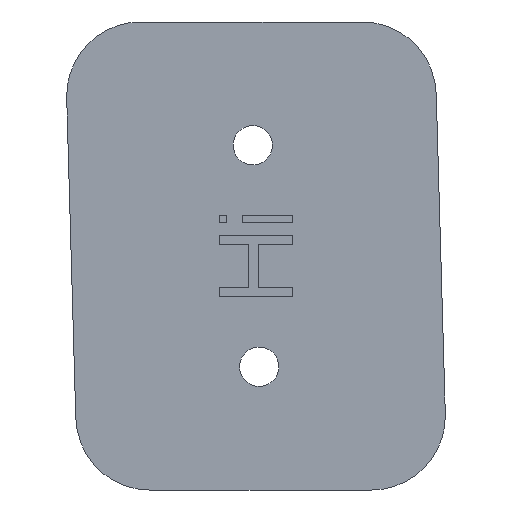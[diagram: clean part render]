
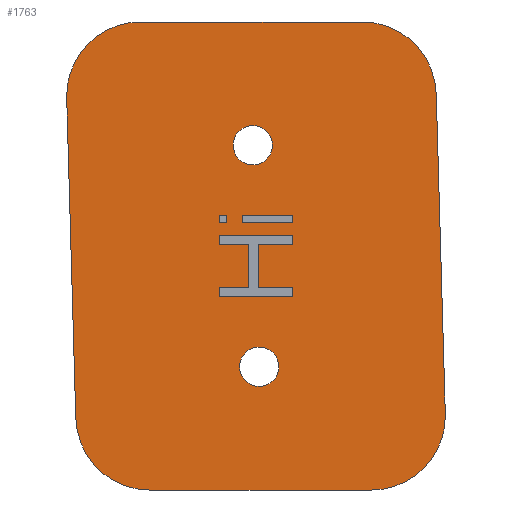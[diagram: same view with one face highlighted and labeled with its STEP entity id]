
A CAD part, front view. The second image highlights one B-rep face of the part: STEP entity #1763.
In plain terms, the highlighted planar face has unit normal (0, -1, 0).
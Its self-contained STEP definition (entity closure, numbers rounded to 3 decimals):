
#2=DIRECTION('',(0.028,0.,-1.));
#3=VECTOR('',#2,26.01);
#4=CARTESIAN_POINT('',(-15.37,-22.25,12.83));
#5=LINE('',#4,#3);
#6=CARTESIAN_POINT('',(-9.372,-22.25,13.));
#7=DIRECTION('',(0.,-1.,0.));
#8=DIRECTION('',(0.,0.,1.));
#9=AXIS2_PLACEMENT_3D('',#6,#7,#8);
#11=DIRECTION('',(-1.,0.,0.));
#12=VECTOR('',#11,18.007);
#13=CARTESIAN_POINT('',(8.635,-22.25,19.));
#14=LINE('',#13,#12);
#15=CARTESIAN_POINT('',(8.635,-22.25,13.));
#16=DIRECTION('',(0.,-1.,0.));
#17=DIRECTION('',(1.,0.,0.028));
#18=AXIS2_PLACEMENT_3D('',#15,#16,#17);
#20=DIRECTION('',(-0.028,0.,1.));
#21=VECTOR('',#20,26.01);
#22=CARTESIAN_POINT('',(15.37,-22.25,-12.83));
#23=LINE('',#22,#21);
#24=CARTESIAN_POINT('',(9.372,-22.25,-13.));
#25=DIRECTION('',(0.,-1.,0.));
#26=DIRECTION('',(0.,0.,-1.));
#27=AXIS2_PLACEMENT_3D('',#24,#25,#26);
#29=DIRECTION('',(1.,0.,0.));
#30=VECTOR('',#29,18.007);
#31=CARTESIAN_POINT('',(-8.635,-22.25,-19.));
#32=LINE('',#31,#30);
#33=CARTESIAN_POINT('',(-8.635,-22.25,-13.));
#34=DIRECTION('',(0.,-1.,0.));
#35=DIRECTION('',(-1.,0.,-0.028));
#36=AXIS2_PLACEMENT_3D('',#33,#34,#35);
#38=CARTESIAN_POINT('',(0.255,-22.25,-8.996));
#39=DIRECTION('',(0.,-1.,0.));
#40=DIRECTION('',(1.,0.,0.));
#41=AXIS2_PLACEMENT_3D('',#38,#39,#40);
#43=CARTESIAN_POINT('',(0.255,-22.25,-8.996));
#44=DIRECTION('',(0.,-1.,0.));
#45=DIRECTION('',(-1.,0.,0.));
#46=AXIS2_PLACEMENT_3D('',#43,#44,#45);
#48=CARTESIAN_POINT('',(-0.255,-22.25,8.996));
#49=DIRECTION('',(0.,-1.,0.));
#50=DIRECTION('',(1.,0.,0.));
#51=AXIS2_PLACEMENT_3D('',#48,#49,#50);
#53=CARTESIAN_POINT('',(-0.255,-22.25,8.996));
#54=DIRECTION('',(0.,-1.,0.));
#55=DIRECTION('',(-1.,0.,0.));
#56=AXIS2_PLACEMENT_3D('',#53,#54,#55);
#58=DIRECTION('',(-1.,0.,0.));
#59=VECTOR('',#58,2.426);
#60=CARTESIAN_POINT('',(-0.574,-22.25,-2.563));
#61=LINE('',#60,#59);
#62=DIRECTION('',(0.,0.,-1.));
#63=VECTOR('',#62,0.75);
#64=CARTESIAN_POINT('',(-3.,-22.25,-2.563));
#65=LINE('',#64,#63);
#66=DIRECTION('',(1.,0.,0.));
#67=VECTOR('',#66,6.);
#68=CARTESIAN_POINT('',(-3.,-22.25,-3.313));
#69=LINE('',#68,#67);
#70=DIRECTION('',(0.,0.,1.));
#71=VECTOR('',#70,0.75);
#72=CARTESIAN_POINT('',(3.,-22.25,-3.313));
#73=LINE('',#72,#71);
#74=DIRECTION('',(-1.,0.,0.));
#75=VECTOR('',#74,2.809);
#76=CARTESIAN_POINT('',(3.,-22.25,-2.563));
#77=LINE('',#76,#75);
#78=DIRECTION('',(0.,0.,1.));
#79=VECTOR('',#78,3.5);
#80=CARTESIAN_POINT('',(0.191,-22.25,-2.563));
#81=LINE('',#80,#79);
#82=DIRECTION('',(1.,0.,0.));
#83=VECTOR('',#82,2.809);
#84=CARTESIAN_POINT('',(0.191,-22.25,0.937));
#85=LINE('',#84,#83);
#86=DIRECTION('',(0.,0.,1.));
#87=VECTOR('',#86,0.75);
#88=CARTESIAN_POINT('',(3.,-22.25,0.937));
#89=LINE('',#88,#87);
#90=DIRECTION('',(-1.,0.,0.));
#91=VECTOR('',#90,6.);
#92=CARTESIAN_POINT('',(3.,-22.25,1.687));
#93=LINE('',#92,#91);
#94=DIRECTION('',(0.,0.,-1.));
#95=VECTOR('',#94,0.75);
#96=CARTESIAN_POINT('',(-3.,-22.25,1.687));
#97=LINE('',#96,#95);
#98=DIRECTION('',(1.,0.,0.));
#99=VECTOR('',#98,2.426);
#100=CARTESIAN_POINT('',(-3.,-22.25,0.937));
#101=LINE('',#100,#99);
#102=DIRECTION('',(0.,0.,-1.));
#103=VECTOR('',#102,3.5);
#104=CARTESIAN_POINT('',(-0.574,-22.25,0.937));
#105=LINE('',#104,#103);
#106=DIRECTION('',(-1.,0.,0.));
#107=VECTOR('',#106,4.085);
#108=CARTESIAN_POINT('',(3.,-22.25,3.312));
#109=LINE('',#108,#107);
#110=DIRECTION('',(0.,0.,-1.));
#111=VECTOR('',#110,0.625);
#112=CARTESIAN_POINT('',(-1.085,-22.25,3.312));
#113=LINE('',#112,#111);
#114=DIRECTION('',(1.,0.,0.));
#115=VECTOR('',#114,4.085);
#116=CARTESIAN_POINT('',(-1.085,-22.25,2.688));
#117=LINE('',#116,#115);
#118=DIRECTION('',(0.,0.,1.));
#119=VECTOR('',#118,0.625);
#120=CARTESIAN_POINT('',(3.,-22.25,2.688));
#121=LINE('',#120,#119);
#122=DIRECTION('',(-1.,0.,0.));
#123=VECTOR('',#122,0.638);
#124=CARTESIAN_POINT('',(-2.362,-22.25,3.312));
#125=LINE('',#124,#123);
#126=DIRECTION('',(0.,0.,-1.));
#127=VECTOR('',#126,0.625);
#128=CARTESIAN_POINT('',(-3.,-22.25,3.312));
#129=LINE('',#128,#127);
#130=DIRECTION('',(1.,0.,0.));
#131=VECTOR('',#130,0.638);
#132=CARTESIAN_POINT('',(-3.,-22.25,2.688));
#133=LINE('',#132,#131);
#134=DIRECTION('',(0.,0.,1.));
#135=VECTOR('',#134,0.625);
#136=CARTESIAN_POINT('',(-2.362,-22.25,2.688));
#137=LINE('',#136,#135);
#1540=CARTESIAN_POINT('',(-0.574,-22.25,-2.563));
#1541=CARTESIAN_POINT('',(-3.,-22.25,-2.563));
#1542=VERTEX_POINT('',#1540);
#1543=VERTEX_POINT('',#1541);
#1544=CARTESIAN_POINT('',(-3.,-22.25,-3.313));
#1545=VERTEX_POINT('',#1544);
#1546=CARTESIAN_POINT('',(3.,-22.25,-3.313));
#1547=VERTEX_POINT('',#1546);
#1548=CARTESIAN_POINT('',(3.,-22.25,-2.563));
#1549=VERTEX_POINT('',#1548);
#1558=CARTESIAN_POINT('',(3.,-22.25,3.312));
#1559=CARTESIAN_POINT('',(-1.085,-22.25,3.312));
#1560=VERTEX_POINT('',#1558);
#1561=VERTEX_POINT('',#1559);
#1562=CARTESIAN_POINT('',(-1.085,-22.25,2.688));
#1563=VERTEX_POINT('',#1562);
#1564=CARTESIAN_POINT('',(3.,-22.25,2.688));
#1565=VERTEX_POINT('',#1564);
#1566=CARTESIAN_POINT('',(1.855,-22.25,-8.996));
#1567=CARTESIAN_POINT('',(-1.345,-22.25,-8.996));
#1568=VERTEX_POINT('',#1566);
#1569=VERTEX_POINT('',#1567);
#1578=CARTESIAN_POINT('',(1.345,-22.25,8.996));
#1579=CARTESIAN_POINT('',(-1.855,-22.25,8.996));
#1580=VERTEX_POINT('',#1578);
#1581=VERTEX_POINT('',#1579);
#1612=CARTESIAN_POINT('',(0.191,-22.25,-2.563));
#1613=VERTEX_POINT('',#1612);
#1614=CARTESIAN_POINT('',(0.191,-22.25,0.937));
#1615=VERTEX_POINT('',#1614);
#1616=CARTESIAN_POINT('',(3.,-22.25,0.937));
#1617=VERTEX_POINT('',#1616);
#1618=CARTESIAN_POINT('',(3.,-22.25,1.687));
#1619=VERTEX_POINT('',#1618);
#1620=CARTESIAN_POINT('',(-3.,-22.25,1.687));
#1621=VERTEX_POINT('',#1620);
#1622=CARTESIAN_POINT('',(-3.,-22.25,0.937));
#1623=VERTEX_POINT('',#1622);
#1624=CARTESIAN_POINT('',(-0.574,-22.25,0.937));
#1625=VERTEX_POINT('',#1624);
#1626=CARTESIAN_POINT('',(-2.362,-22.25,3.312));
#1627=CARTESIAN_POINT('',(-3.,-22.25,3.312));
#1628=VERTEX_POINT('',#1626);
#1629=VERTEX_POINT('',#1627);
#1630=CARTESIAN_POINT('',(-3.,-22.25,2.688));
#1631=VERTEX_POINT('',#1630);
#1632=CARTESIAN_POINT('',(-2.362,-22.25,2.688));
#1633=VERTEX_POINT('',#1632);
#1634=CARTESIAN_POINT('',(-15.37,-22.25,12.83));
#1635=CARTESIAN_POINT('',(-14.633,-22.25,-13.17));
#1636=VERTEX_POINT('',#1634);
#1637=VERTEX_POINT('',#1635);
#1638=CARTESIAN_POINT('',(-8.635,-22.25,-19.));
#1639=VERTEX_POINT('',#1638);
#1640=CARTESIAN_POINT('',(9.372,-22.25,-19.));
#1641=VERTEX_POINT('',#1640);
#1642=CARTESIAN_POINT('',(15.37,-22.25,-12.83));
#1643=VERTEX_POINT('',#1642);
#1644=CARTESIAN_POINT('',(14.633,-22.25,13.17));
#1645=VERTEX_POINT('',#1644);
#1646=CARTESIAN_POINT('',(8.635,-22.25,19.));
#1647=VERTEX_POINT('',#1646);
#1648=CARTESIAN_POINT('',(-9.372,-22.25,19.));
#1649=VERTEX_POINT('',#1648);
#1682=CARTESIAN_POINT('',(0.,-22.25,0.));
#1683=DIRECTION('',(0.,1.,0.));
#1684=DIRECTION('',(0.,0.,1.));
#1685=AXIS2_PLACEMENT_3D('',#1682,#1683,#1684);
#1686=PLANE('',#1685);
#1688=ORIENTED_EDGE('',*,*,#1687,.F.);
#1690=ORIENTED_EDGE('',*,*,#1689,.F.);
#1692=ORIENTED_EDGE('',*,*,#1691,.F.);
#1694=ORIENTED_EDGE('',*,*,#1693,.F.);
#1696=ORIENTED_EDGE('',*,*,#1695,.F.);
#1698=ORIENTED_EDGE('',*,*,#1697,.F.);
#1700=ORIENTED_EDGE('',*,*,#1699,.F.);
#1702=ORIENTED_EDGE('',*,*,#1701,.F.);
#1703=EDGE_LOOP('',(#1688,#1690,#1692,#1694,#1696,#1698,#1700,#1702));
#1704=FACE_OUTER_BOUND('',#1703,.F.);
#1706=ORIENTED_EDGE('',*,*,#1705,.T.);
#1708=ORIENTED_EDGE('',*,*,#1707,.T.);
#1709=EDGE_LOOP('',(#1706,#1708));
#1710=FACE_BOUND('',#1709,.F.);
#1712=ORIENTED_EDGE('',*,*,#1711,.T.);
#1714=ORIENTED_EDGE('',*,*,#1713,.T.);
#1715=EDGE_LOOP('',(#1712,#1714));
#1716=FACE_BOUND('',#1715,.F.);
#1718=ORIENTED_EDGE('',*,*,#1717,.T.);
#1720=ORIENTED_EDGE('',*,*,#1719,.T.);
#1722=ORIENTED_EDGE('',*,*,#1721,.T.);
#1724=ORIENTED_EDGE('',*,*,#1723,.T.);
#1726=ORIENTED_EDGE('',*,*,#1725,.T.);
#1728=ORIENTED_EDGE('',*,*,#1727,.T.);
#1730=ORIENTED_EDGE('',*,*,#1729,.T.);
#1732=ORIENTED_EDGE('',*,*,#1731,.T.);
#1734=ORIENTED_EDGE('',*,*,#1733,.T.);
#1736=ORIENTED_EDGE('',*,*,#1735,.T.);
#1738=ORIENTED_EDGE('',*,*,#1737,.T.);
#1740=ORIENTED_EDGE('',*,*,#1739,.T.);
#1741=EDGE_LOOP('',(#1718,#1720,#1722,#1724,#1726,#1728,#1730,#1732,#1734,#1736,
#1738,#1740));
#1742=FACE_BOUND('',#1741,.F.);
#1744=ORIENTED_EDGE('',*,*,#1743,.T.);
#1746=ORIENTED_EDGE('',*,*,#1745,.T.);
#1748=ORIENTED_EDGE('',*,*,#1747,.T.);
#1750=ORIENTED_EDGE('',*,*,#1749,.T.);
#1751=EDGE_LOOP('',(#1744,#1746,#1748,#1750));
#1752=FACE_BOUND('',#1751,.F.);
#1754=ORIENTED_EDGE('',*,*,#1753,.T.);
#1756=ORIENTED_EDGE('',*,*,#1755,.T.);
#1758=ORIENTED_EDGE('',*,*,#1757,.T.);
#1760=ORIENTED_EDGE('',*,*,#1759,.T.);
#1761=EDGE_LOOP('',(#1754,#1756,#1758,#1760));
#1762=FACE_BOUND('',#1761,.F.);
#1763=ADVANCED_FACE('',(#1704,#1710,#1716,#1742,#1752,#1762),#1686,.F.);
#10=CIRCLE('',#9,6.);
#19=CIRCLE('',#18,6.);
#28=CIRCLE('',#27,6.);
#37=CIRCLE('',#36,6.);
#42=CIRCLE('',#41,1.6);
#47=CIRCLE('',#46,1.6);
#52=CIRCLE('',#51,1.6);
#57=CIRCLE('',#56,1.6);
#1687=EDGE_CURVE('',#1636,#1637,#5,.T.);
#1689=EDGE_CURVE('',#1649,#1636,#10,.T.);
#1691=EDGE_CURVE('',#1647,#1649,#14,.T.);
#1693=EDGE_CURVE('',#1645,#1647,#19,.T.);
#1695=EDGE_CURVE('',#1643,#1645,#23,.T.);
#1697=EDGE_CURVE('',#1641,#1643,#28,.T.);
#1699=EDGE_CURVE('',#1639,#1641,#32,.T.);
#1701=EDGE_CURVE('',#1637,#1639,#37,.T.);
#1705=EDGE_CURVE('',#1568,#1569,#42,.T.);
#1707=EDGE_CURVE('',#1569,#1568,#47,.T.);
#1711=EDGE_CURVE('',#1580,#1581,#52,.T.);
#1713=EDGE_CURVE('',#1581,#1580,#57,.T.);
#1717=EDGE_CURVE('',#1542,#1543,#61,.T.);
#1719=EDGE_CURVE('',#1543,#1545,#65,.T.);
#1721=EDGE_CURVE('',#1545,#1547,#69,.T.);
#1723=EDGE_CURVE('',#1547,#1549,#73,.T.);
#1725=EDGE_CURVE('',#1549,#1613,#77,.T.);
#1727=EDGE_CURVE('',#1613,#1615,#81,.T.);
#1729=EDGE_CURVE('',#1615,#1617,#85,.T.);
#1731=EDGE_CURVE('',#1617,#1619,#89,.T.);
#1733=EDGE_CURVE('',#1619,#1621,#93,.T.);
#1735=EDGE_CURVE('',#1621,#1623,#97,.T.);
#1737=EDGE_CURVE('',#1623,#1625,#101,.T.);
#1739=EDGE_CURVE('',#1625,#1542,#105,.T.);
#1743=EDGE_CURVE('',#1560,#1561,#109,.T.);
#1745=EDGE_CURVE('',#1561,#1563,#113,.T.);
#1747=EDGE_CURVE('',#1563,#1565,#117,.T.);
#1749=EDGE_CURVE('',#1565,#1560,#121,.T.);
#1753=EDGE_CURVE('',#1628,#1629,#125,.T.);
#1755=EDGE_CURVE('',#1629,#1631,#129,.T.);
#1757=EDGE_CURVE('',#1631,#1633,#133,.T.);
#1759=EDGE_CURVE('',#1633,#1628,#137,.T.);
